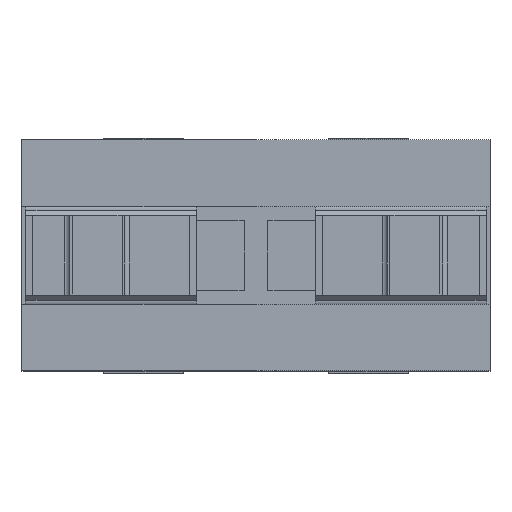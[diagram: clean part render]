
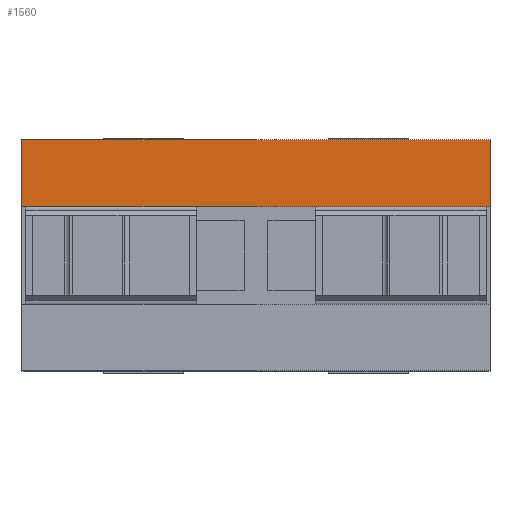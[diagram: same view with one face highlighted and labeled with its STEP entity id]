
A CAD part, top view. The second image highlights one B-rep face of the part: STEP entity #1560.
In plain terms, the highlighted planar face has unit normal (0, 0, 1).
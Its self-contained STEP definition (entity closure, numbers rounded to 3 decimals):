
#406 = LINE ( 'NONE', #5765, #5978 ) ;
#527 = DIRECTION ( 'NONE',  ( 0., -1., 0. ) ) ;
#886 = FACE_OUTER_BOUND ( 'NONE', #3336, .T. ) ;
#1068 = CARTESIAN_POINT ( 'NONE',  ( 23.5, 4.9, 52.7 ) ) ;
#1088 = CARTESIAN_POINT ( 'NONE',  ( 23.5, 11.6, 52.7 ) ) ;
#1141 = EDGE_CURVE ( 'NONE', #1266, #4742, #406, .T. ) ;
#1249 = CARTESIAN_POINT ( 'NONE',  ( -23.5, 4.9, 52.7 ) ) ;
#1266 = VERTEX_POINT ( 'NONE', #1088 ) ;
#1560 = ADVANCED_FACE ( 'NONE', ( #886 ), #3189, .F. ) ;
#1600 = VERTEX_POINT ( 'NONE', #5110 ) ;
#1611 = VECTOR ( 'NONE', #2071, 1000. ) ;
#1965 = DIRECTION ( 'NONE',  ( 0., -1., 0. ) ) ;
#2071 = DIRECTION ( 'NONE',  ( -1., 0., 0. ) ) ;
#2557 = LINE ( 'NONE', #1068, #1611 ) ;
#2773 = CARTESIAN_POINT ( 'NONE',  ( 23.5, 4.9, 52.7 ) ) ;
#2777 = DIRECTION ( 'NONE',  ( -1., 0., 0. ) ) ;
#2860 = CARTESIAN_POINT ( 'NONE',  ( -23.5, 11.6, 52.7 ) ) ;
#3041 = ORIENTED_EDGE ( 'NONE', *, *, #1141, .F. ) ;
#3189 = PLANE ( 'NONE',  #4613 ) ;
#3196 = ORIENTED_EDGE ( 'NONE', *, *, #4565, .F. ) ;
#3336 = EDGE_LOOP ( 'NONE', ( #4334, #3196, #3041, #5893 ) ) ;
#3876 = LINE ( 'NONE', #2860, #5345 ) ;
#3998 = LINE ( 'NONE', #4056, #4793 ) ;
#4024 = DIRECTION ( 'NONE',  ( -1., 0., 0. ) ) ;
#4056 = CARTESIAN_POINT ( 'NONE',  ( 23.5, 11.6, 52.7 ) ) ;
#4334 = ORIENTED_EDGE ( 'NONE', *, *, #5811, .T. ) ;
#4565 = EDGE_CURVE ( 'NONE', #4742, #5120, #2557, .T. ) ;
#4613 = AXIS2_PLACEMENT_3D ( 'NONE', #6094, #4701, #2777 ) ;
#4701 = DIRECTION ( 'NONE',  ( 0., 0., -1. ) ) ;
#4742 = VERTEX_POINT ( 'NONE', #2773 ) ;
#4793 = VECTOR ( 'NONE', #4024, 1000. ) ;
#4979 = EDGE_CURVE ( 'NONE', #1266, #1600, #3998, .T. ) ;
#5110 = CARTESIAN_POINT ( 'NONE',  ( -23.5, 11.6, 52.7 ) ) ;
#5120 = VERTEX_POINT ( 'NONE', #1249 ) ;
#5345 = VECTOR ( 'NONE', #1965, 1000. ) ;
#5765 = CARTESIAN_POINT ( 'NONE',  ( 23.5, 11.6, 52.7 ) ) ;
#5811 = EDGE_CURVE ( 'NONE', #1600, #5120, #3876, .T. ) ;
#5893 = ORIENTED_EDGE ( 'NONE', *, *, #4979, .T. ) ;
#5978 = VECTOR ( 'NONE', #527, 1000. ) ;
#6094 = CARTESIAN_POINT ( 'NONE',  ( 23.5, 11.6, 52.7 ) ) ;
